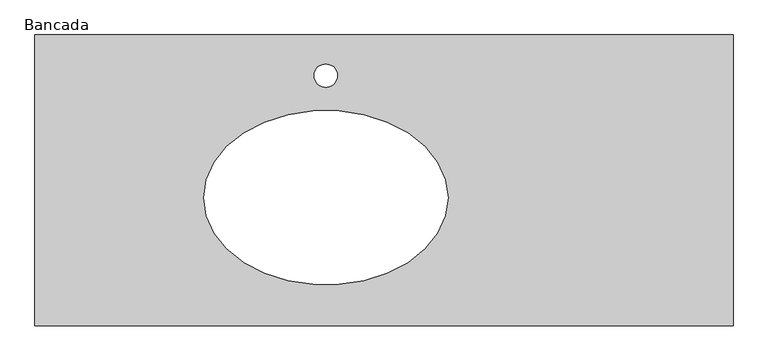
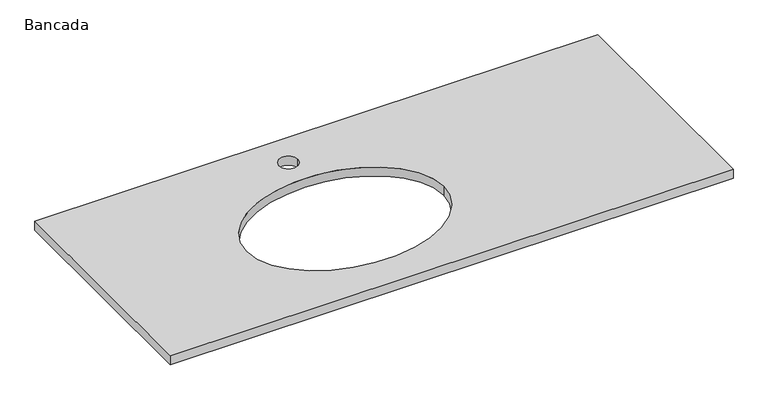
"""IFC4 building model written with IfcOpenShell, lengths in millimetres: furniture geometry, Bancada Retangular para lavatório Cuba Oval com Torneira Chanfro : Bancada."""

from ifc_helpers import new_model, si_unit, point, frame, origin, place, context, project, spatial, polyline, circle_curve, ellipse_curve, trimmed, source, transform, mapped, element, save
from ifc_brep_helpers import plane_surface, revolved_surface, extruded_surface, advanced_brep


def bancada_b1badbe6(model_context):
    return source(origin(), model_context, "Body", "AdvancedBrep", [
        advanced_brep(
        [(624.7003264, -500.0, 1000.0), (624.7003264, 0.0, 1000.0), (-575.2996736, 0.0, 1000.0), (-575.2996736, -500.0, 1000.0), (-55.4142184, -70.0, 1000.0), (-95.4142184, -70.0, 1000.0), (-285.2996736, -279.7230202, 1000.0), (134.7003264, -279.7230202, 1000.0), (624.7003264, -500.0, 980.0), (-575.2996736, -500.0, 980.0), (-575.2996736, 0.0, 980.0), (624.7003264, 0.0, 980.0), (-95.4142184, -70.0, 980.0), (-55.4142184, -70.0, 980.0), (134.7003264, -279.7230202, 980.0), (-285.2996736, -279.7230202, 980.0)],
        [
            (0, 1),
            (1, 2),
            (2, 3),
            (3, 0),
            (4, 5, circle_curve(frame((-75.4142184, -70.0, 1000.0), z_axis=(0.0, 0.0, -1.0), x_axis=(1.0, 0.0, 0.0)), 20.0)),
            (5, 4, circle_curve(frame((-75.4142184, -70.0, 1000.0), z_axis=(0.0, 0.0, -1.0), x_axis=(1.0, 0.0, 0.0)), 20.0)),
            (6, 7, ellipse_curve(frame((-75.2996736, -279.7230202, 1000.0), z_axis=(0.0, 0.0, -1.0), x_axis=(-1.0, 0.0, 0.0)), 210.0, 150.0)),
            (7, 6, ellipse_curve(frame((-75.2996736, -279.7230202, 1000.0), z_axis=(0.0, 0.0, -1.0), x_axis=(-1.0, 0.0, 0.0)), 210.0, 150.0)),
            (8, 9),
            (9, 10),
            (10, 11),
            (11, 8),
            (12, 13, circle_curve(frame((-75.4142184, -70.0, 980.0), z_axis=(0.0, 0.0, 1.0), x_axis=(1.0, 0.0, 0.0)), 20.0)),
            (13, 12, circle_curve(frame((-75.4142184, -70.0, 980.0), z_axis=(0.0, 0.0, 1.0), x_axis=(1.0, 0.0, 0.0)), 20.0)),
            (14, 15, ellipse_curve(frame((-75.2996736, -279.7230202, 980.0), z_axis=(0.0, 0.0, 1.0), x_axis=(-1.0, 0.0, 0.0)), 210.0, 150.0)),
            (15, 14, ellipse_curve(frame((-75.2996736, -279.7230202, 980.0), z_axis=(0.0, 0.0, 1.0), x_axis=(-1.0, 0.0, 0.0)), 210.0, 150.0)),
            (0, 8),
            (11, 1),
            (10, 2),
            (9, 3),
            (12, 5),
            (4, 13),
            (14, 7),
            (6, 15),
        ],
        [
            plane_surface(frame((624.7003264, -400.0, 1000.0), z_axis=(0.0, 0.0, 1.0), x_axis=(0.0, 1.0, 0.0))),
            plane_surface(frame((624.7003264, -400.0, 980.0), z_axis=(0.0, 0.0, -1.0), x_axis=(0.0, -1.0, 0.0))),
            plane_surface(frame((624.7003264, -500.0, 1000.0), z_axis=(1.0, 0.0, 0.0), x_axis=(0.0, 0.0, -1.0))),
            plane_surface(frame((624.7003264, 0.0, 1000.0), z_axis=(0.0, 1.0, 0.0), x_axis=(0.0, 0.0, -1.0))),
            plane_surface(frame((-575.2996736, 0.0, 1000.0), z_axis=(-1.0, 0.0, 0.0), x_axis=(0.0, 0.0, -1.0))),
            plane_surface(frame((-575.2996736, -500.0, 1000.0), z_axis=(0.0, -1.0, 0.0), x_axis=(0.0, 0.0, -1.0))),
            revolved_surface(polyline([(-55.414218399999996, -70.0, 1000.0), (-55.414218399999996, -70.0, 980.0)]), (-75.4142184, -70.0, 680.0), (0.0, 0.0, 1.0)),
            extruded_surface(trimmed(ellipse_curve(frame((-75.2996736, -279.7230202, 680.0), z_axis=(0.0, 0.0, 1.0), x_axis=(-1.0, 0.0, 0.0)), 210.0, 150.0), [point((134.7003264, -279.7230202, 680.0))], [point((-285.2996736, -279.7230202, 680.0))], True, "CARTESIAN"), (0.0, 0.0, -320.0), 320.0),
            extruded_surface(trimmed(ellipse_curve(frame((-75.2996736, -279.7230202, 680.0), z_axis=(0.0, 0.0, 1.0), x_axis=(-1.0, 0.0, 0.0)), 210.0, 150.0), [point((-285.2996736, -279.7230202, 680.0))], [point((134.7003264, -279.7230202, 680.0))], True, "CARTESIAN"), (0.0, 0.0, -320.0), 320.0),
        ],
        [
            (0, [[1, 2, 3, 4], [5, 6], [7, 8]]),
            (1, [[9, 10, 11, 12], [13, 14], [15, 16]]),
            (2, [[-1, 17, -12, 18]]),
            (3, [[-2, -18, -11, 19]]),
            (4, [[-3, -19, -10, 20]]),
            (5, [[-4, -20, -9, -17]]),
            (6, [[21, -5, 22, -13]]),
            (6, [[-21, -14, -22, -6]]),
            (7, [[23, -7, 24, -15]]),
            (8, [[-23, -16, -24, -8]]),
        ],
    ),
    ])


if __name__ == "__main__":
    model = new_model("IFC4")
    model_context = context("Model", 3, world=origin())
    ifc_project = project(units=[si_unit("LENGTHUNIT", "METRE", prefix="MILLI")], contexts=[model_context])
    site = spatial("IfcSite", under=ifc_project)
    building = spatial("IfcBuilding", under=site)
    placement = place(None, origin())
    bancada_shape = bancada_b1badbe6(model_context)
    element("IfcFurniture", 1, ObjectType="Bancada Retangular para lavatório Cuba Oval com Torneira Chanfro : Bancada", at=placement, inside=building, context=model_context, shape_type="MappedRepresentation", body=[
        mapped(bancada_shape, transform((0.0, 0.0, 0.0), x_axis=(1.0, 0.0, 0.0), y_axis=(0.0, 1.0, 0.0), z_axis=(0.0, 0.0, 1.0))),
    ])
    save(model, "model.ifc")
